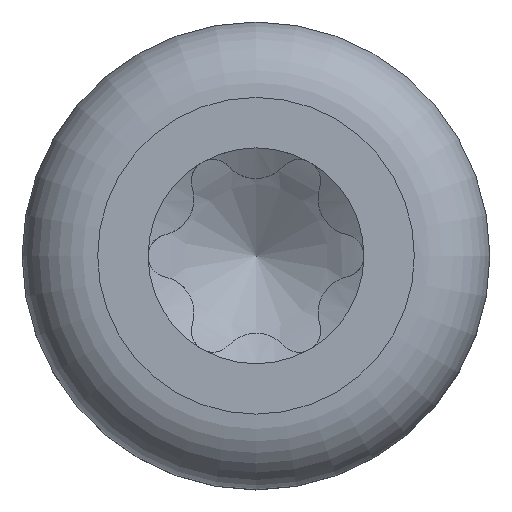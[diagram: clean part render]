
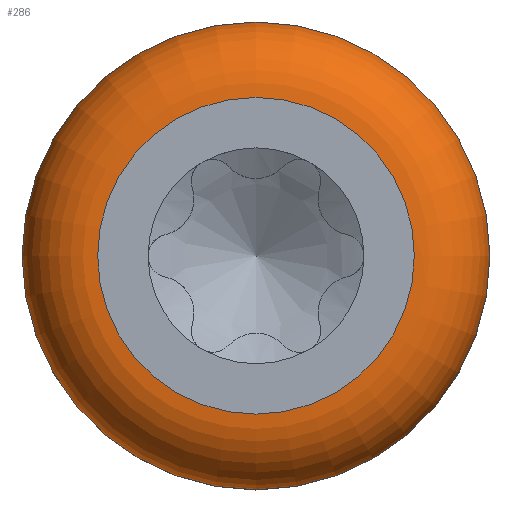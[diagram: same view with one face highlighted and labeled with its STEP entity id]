
A CAD part, top view. The second image highlights one B-rep face of the part: STEP entity #286.
In plain terms, the highlighted toroidal (fillet/blend) face has major radius 0.88 mm and minor radius 0.42 mm.
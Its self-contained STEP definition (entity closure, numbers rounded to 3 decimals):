
#246=TOROIDAL_SURFACE('',#1612,0.88,0.42);
#257=FACE_BOUND('',#493,.T.);
#258=FACE_BOUND('',#494,.T.);
#286=ADVANCED_FACE('',(#257,#258),#246,.T.);
#493=EDGE_LOOP('',(#669));
#494=EDGE_LOOP('',(#670));
#598=CIRCLE('',#1609,1.3);
#599=CIRCLE('',#1611,0.88);
#669=ORIENTED_EDGE('',*,*,#1274,.F.);
#670=ORIENTED_EDGE('',*,*,#1273,.T.);
#1123=VERTEX_POINT('',#3675);
#1124=VERTEX_POINT('',#3678);
#1273=EDGE_CURVE('',#1123,#1123,#598,.T.);
#1274=EDGE_CURVE('',#1124,#1124,#599,.T.);
#1609=AXIS2_PLACEMENT_3D('',#3674,#1681,#1682);
#1611=AXIS2_PLACEMENT_3D('',#3677,#1685,#1686);
#1612=AXIS2_PLACEMENT_3D('',#3679,#1687,#1688);
#1681=DIRECTION('',(0.,0.,1.));
#1682=DIRECTION('',(1.,0.,0.));
#1685=DIRECTION('',(0.,0.,1.));
#1686=DIRECTION('',(1.,0.,0.));
#1687=DIRECTION('',(0.,0.,1.));
#1688=DIRECTION('',(1.,0.,0.));
#3674=CARTESIAN_POINT('',(0.,0.,0.63));
#3675=CARTESIAN_POINT('',(1.3,0.,0.63));
#3677=CARTESIAN_POINT('',(0.,0.,1.05));
#3678=CARTESIAN_POINT('',(0.88,0.,1.05));
#3679=CARTESIAN_POINT('',(0.,0.,0.63));
